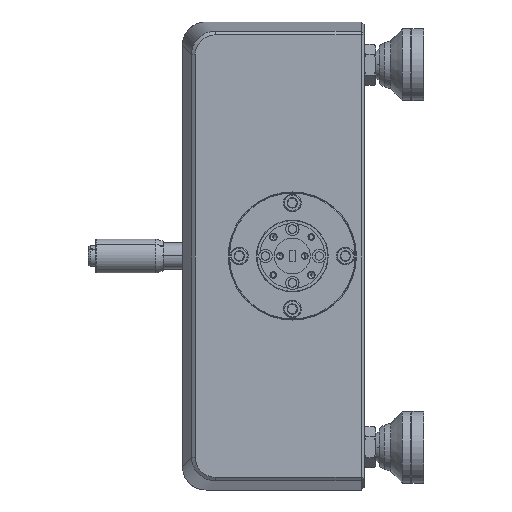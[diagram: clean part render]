
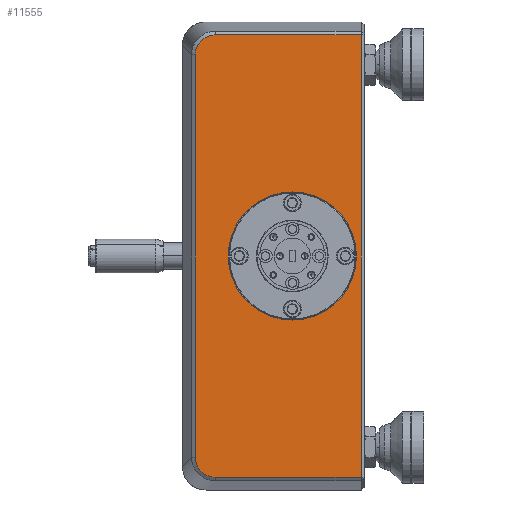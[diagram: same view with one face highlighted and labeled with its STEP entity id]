
A CAD part, left-side view. The second image highlights one B-rep face of the part: STEP entity #11555.
In plain terms, the highlighted planar face has unit normal (-1, 0, 0).
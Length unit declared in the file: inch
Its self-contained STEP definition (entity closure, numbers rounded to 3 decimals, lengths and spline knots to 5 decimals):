
#271 = VERTEX_POINT ( 'NONE', #18985 ) ;
#394 = CARTESIAN_POINT ( 'NONE',  ( -3.68787, -0.35747, -0.48284 ) ) ;
#486 = EDGE_CURVE ( 'NONE', #38828, #44284, #48067, .T. ) ;
#1349 = CARTESIAN_POINT ( 'NONE',  ( -3.68787, 1.37761, -0.27392 ) ) ;
#1467 = CIRCLE ( 'NONE', #34778, 0.67 ) ;
#2725 = PLANE ( 'NONE',  #25868 ) ;
#2942 = CARTESIAN_POINT ( 'NONE',  ( -3.68787, 1.1961, 4.14047 ) ) ;
#3037 = CARTESIAN_POINT ( 'NONE',  ( -3.68787, -0.35747, 1.82949 ) ) ;
#3212 = CARTESIAN_POINT ( 'NONE',  ( -3.68787, 1.37761, 3.93289 ) ) ;
#5011 = CARTESIAN_POINT ( 'NONE',  ( -3.68787, 1.37626, -0.30133 ) ) ;
#5138 = DIRECTION ( 'NONE',  ( -1., 0., 0. ) ) ;
#5599 = CARTESIAN_POINT ( 'NONE',  ( -3.68787, 1.37761, 3.93289 ) ) ;
#5837 = CARTESIAN_POINT ( 'NONE',  ( -3.68787, 1.3349, -0.40169 ) ) ;
#6341 = CARTESIAN_POINT ( 'NONE',  ( -3.68787, 1.30702, 4.09045 ) ) ;
#6644 = AXIS2_PLACEMENT_3D ( 'NONE', #26018, #5138, #43193 ) ;
#7467 = DIRECTION ( 'NONE',  ( 1., 0., 0. ) ) ;
#9037 = EDGE_CURVE ( 'NONE', #42379, #54721, #40337, .T. ) ;
#9203 = EDGE_CURVE ( 'NONE', #44284, #38828, #1467, .T. ) ;
#10055 = VECTOR ( 'NONE', #27184, 39.37008 ) ;
#10070 = CARTESIAN_POINT ( 'NONE',  ( -3.68787, 1.37761, -0.28765 ) ) ;
#10103 = CARTESIAN_POINT ( 'NONE',  ( -3.68787, 0.36253, 1.15949 ) ) ;
#10927 = DIRECTION ( 'NONE',  ( 0., 0., 1. ) ) ;
#11095 = CARTESIAN_POINT ( 'NONE',  ( -3.68787, 1.27358, 4.11435 ) ) ;
#11258 = DIRECTION ( 'NONE',  ( 0., 1., 0. ) ) ;
#11555 = ADVANCED_FACE ( 'NONE', ( #23585, #45528 ), #2725, .F. ) ;
#11672 = CARTESIAN_POINT ( 'NONE',  ( -3.68787, 1.29646, 4.0991 ) ) ;
#13041 = ORIENTED_EDGE ( 'NONE', *, *, #39064, .T. ) ;
#14777 = CARTESIAN_POINT ( 'NONE',  ( -3.68787, 1.16869, 4.14181 ) ) ;
#15333 = CARTESIAN_POINT ( 'NONE',  ( -3.68787, 1.36698, 4.0005 ) ) ;
#15804 = DIRECTION ( 'NONE',  ( -1., 0., 0. ) ) ;
#16178 = CARTESIAN_POINT ( 'NONE',  ( -3.68787, 0.36253, 2.49949 ) ) ;
#16849 = B_SPLINE_CURVE_WITH_KNOTS ( 'NONE', 3,
 ( #1349, #10070, #5011, #35455, #52363, #52928, #27283, #5837, #53191, #23345, #31246, #48418, #35744, #40551, #23053, #48957, #22205, #39431 ),
 .UNSPECIFIED., .F., .F.,
 ( 4, 2, 2, 2, 2, 2, 2, 2, 4 ),
 ( 0., 0.125, 0.25, 0.375, 0.5, 0.625, 0.75, 0.875, 1. ),
 .UNSPECIFIED. ) ;
#18985 = CARTESIAN_POINT ( 'NONE',  ( -3.68787, -0.35747, 4.14181 ) ) ;
#19571 = CARTESIAN_POINT ( 'NONE',  ( -3.68787, 0.56253, -0.48284 ) ) ;
#19795 = DIRECTION ( 'NONE',  ( 0., 0., 1. ) ) ;
#20110 = CARTESIAN_POINT ( 'NONE',  ( -3.68787, 1.22318, 4.13512 ) ) ;
#22154 = EDGE_CURVE ( 'NONE', #38970, #271, #50375, .T. ) ;
#22175 = VECTOR ( 'NONE', #11258, 39.37008 ) ;
#22205 = CARTESIAN_POINT ( 'NONE',  ( -3.68787, 1.18246, -0.48284 ) ) ;
#22239 = EDGE_LOOP ( 'NONE', ( #24233, #47302 ) ) ;
#23053 = CARTESIAN_POINT ( 'NONE',  ( -3.68787, 1.22321, -0.47615 ) ) ;
#23345 = CARTESIAN_POINT ( 'NONE',  ( -3.68787, 1.30703, -0.43148 ) ) ;
#23542 = CARTESIAN_POINT ( 'NONE',  ( -3.68787, 1.32625, 4.07123 ) ) ;
#23585 = FACE_OUTER_BOUND ( 'NONE', #44694, .T. ) ;
#24233 = ORIENTED_EDGE ( 'NONE', *, *, #486, .F. ) ;
#24273 = LINE ( 'NONE', #49618, #22175 ) ;
#24321 = CARTESIAN_POINT ( 'NONE',  ( -3.68787, 0.36253, 1.82949 ) ) ;
#24640 = CARTESIAN_POINT ( 'NONE',  ( -3.68787, 1.37092, 3.98742 ) ) ;
#25632 = ORIENTED_EDGE ( 'NONE', *, *, #50469, .T. ) ;
#25868 = AXIS2_PLACEMENT_3D ( 'NONE', #45833, #7467, #41050 ) ;
#26018 = CARTESIAN_POINT ( 'NONE',  ( -3.68787, 0.36253, 1.82949 ) ) ;
#26585 = CARTESIAN_POINT ( 'NONE',  ( -3.68787, 1.16869, 4.14181 ) ) ;
#26901 = ORIENTED_EDGE ( 'NONE', *, *, #9037, .T. ) ;
#27184 = DIRECTION ( 'NONE',  ( 0., 0., -1. ) ) ;
#27283 = CARTESIAN_POINT ( 'NONE',  ( -3.68787, 1.35015, -0.37881 ) ) ;
#27599 = CARTESIAN_POINT ( 'NONE',  ( -3.68787, 1.16869, -0.48284 ) ) ;
#28889 = CARTESIAN_POINT ( 'NONE',  ( -3.68787, 1.23631, 4.13117 ) ) ;
#29534 = VECTOR ( 'NONE', #10927, 39.37008 ) ;
#29856 = CARTESIAN_POINT ( 'NONE',  ( -3.68787, 1.37761, -0.27392 ) ) ;
#31246 = CARTESIAN_POINT ( 'NONE',  ( -3.68787, 1.29646, -0.44013 ) ) ;
#31429 = ORIENTED_EDGE ( 'NONE', *, *, #31986, .T. ) ;
#31734 = LINE ( 'NONE', #19571, #37823 ) ;
#31986 = EDGE_CURVE ( 'NONE', #44425, #38970, #31734, .T. ) ;
#32551 = CARTESIAN_POINT ( 'NONE',  ( -3.68787, 1.35657, 4.02573 ) ) ;
#33022 = VERTEX_POINT ( 'NONE', #29856 ) ;
#34778 = AXIS2_PLACEMENT_3D ( 'NONE', #24321, #15804, #19795 ) ;
#35455 = CARTESIAN_POINT ( 'NONE',  ( -3.68787, 1.37092, -0.32841 ) ) ;
#35744 = CARTESIAN_POINT ( 'NONE',  ( -3.68787, 1.26152, -0.4618 ) ) ;
#36504 = CARTESIAN_POINT ( 'NONE',  ( -3.68787, 1.35015, 4.03778 ) ) ;
#37326 = ORIENTED_EDGE ( 'NONE', *, *, #22154, .T. ) ;
#37328 = CARTESIAN_POINT ( 'NONE',  ( -3.68787, 1.26151, 4.12079 ) ) ;
#37823 = VECTOR ( 'NONE', #45785, 39.37008 ) ;
#38828 = VERTEX_POINT ( 'NONE', #16178 ) ;
#38970 = VERTEX_POINT ( 'NONE', #394 ) ;
#39064 = EDGE_CURVE ( 'NONE', #54721, #33022, #45437, .T. ) ;
#39431 = CARTESIAN_POINT ( 'NONE',  ( -3.68787, 1.16869, -0.48284 ) ) ;
#40138 = CARTESIAN_POINT ( 'NONE',  ( -3.68787, 1.37761, 1.82949 ) ) ;
#40337 = B_SPLINE_CURVE_WITH_KNOTS ( 'NONE', 3,
 ( #14777, #41565, #2942, #20110, #28889, #37328, #11095, #11672, #6341, #23542, #46059, #36504, #32551, #15333, #24640, #41818, #53687, #3212 ),
 .UNSPECIFIED., .F., .F.,
 ( 4, 2, 2, 2, 2, 2, 2, 2, 4 ),
 ( 0., 0.125, 0.25, 0.375, 0.5, 0.625, 0.75, 0.875, 1. ),
 .UNSPECIFIED. ) ;
#40551 = CARTESIAN_POINT ( 'NONE',  ( -3.68787, 1.2363, -0.47221 ) ) ;
#41050 = DIRECTION ( 'NONE',  ( 0., 1., 0. ) ) ;
#41565 = CARTESIAN_POINT ( 'NONE',  ( -3.68787, 1.18242, 4.14181 ) ) ;
#41818 = CARTESIAN_POINT ( 'NONE',  ( -3.68787, 1.37627, 3.96032 ) ) ;
#42379 = VERTEX_POINT ( 'NONE', #26585 ) ;
#43193 = DIRECTION ( 'NONE',  ( 0., 0., 1. ) ) ;
#44284 = VERTEX_POINT ( 'NONE', #10103 ) ;
#44425 = VERTEX_POINT ( 'NONE', #27599 ) ;
#44694 = EDGE_LOOP ( 'NONE', ( #25632, #31429, #37326, #51403, #26901, #13041 ) ) ;
#45437 = LINE ( 'NONE', #40138, #10055 ) ;
#45528 = FACE_BOUND ( 'NONE', #22239, .T. ) ;
#45785 = DIRECTION ( 'NONE',  ( 0., -1., 0. ) ) ;
#45833 = CARTESIAN_POINT ( 'NONE',  ( -3.68787, 0.56253, 1.82949 ) ) ;
#46059 = CARTESIAN_POINT ( 'NONE',  ( -3.68787, 1.3349, 4.06066 ) ) ;
#47302 = ORIENTED_EDGE ( 'NONE', *, *, #9203, .F. ) ;
#47924 = EDGE_CURVE ( 'NONE', #271, #42379, #24273, .T. ) ;
#48067 = CIRCLE ( 'NONE', #6644, 0.67 ) ;
#48418 = CARTESIAN_POINT ( 'NONE',  ( -3.68787, 1.27358, -0.45538 ) ) ;
#48957 = CARTESIAN_POINT ( 'NONE',  ( -3.68787, 1.19612, -0.4815 ) ) ;
#49618 = CARTESIAN_POINT ( 'NONE',  ( -3.68787, 0.56253, 4.14181 ) ) ;
#50375 = LINE ( 'NONE', #3037, #29534 ) ;
#50469 = EDGE_CURVE ( 'NONE', #33022, #44425, #16849, .T. ) ;
#51403 = ORIENTED_EDGE ( 'NONE', *, *, #47924, .T. ) ;
#52363 = CARTESIAN_POINT ( 'NONE',  ( -3.68787, 1.36697, -0.34154 ) ) ;
#52928 = CARTESIAN_POINT ( 'NONE',  ( -3.68787, 1.35658, -0.36674 ) ) ;
#53191 = CARTESIAN_POINT ( 'NONE',  ( -3.68787, 1.32625, -0.41225 ) ) ;
#53687 = CARTESIAN_POINT ( 'NONE',  ( -3.68787, 1.37761, 3.94666 ) ) ;
#54721 = VERTEX_POINT ( 'NONE', #5599 ) ;
